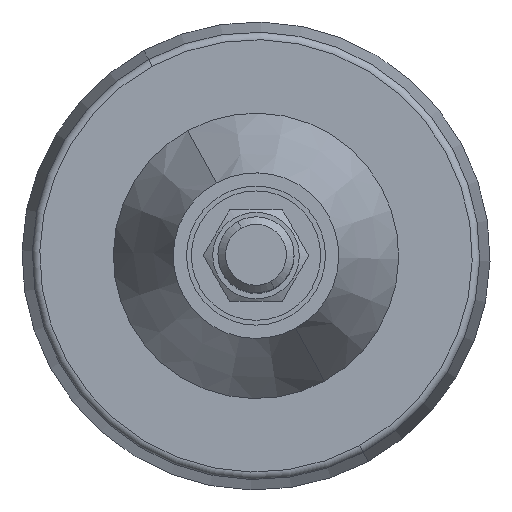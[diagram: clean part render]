
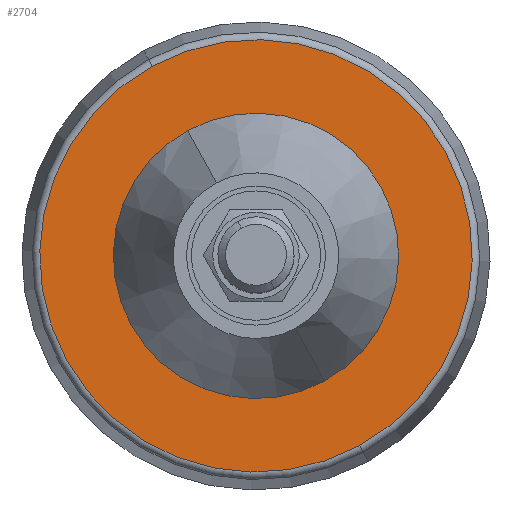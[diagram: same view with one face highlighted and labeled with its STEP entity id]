
A CAD part, top view. The second image highlights one B-rep face of the part: STEP entity #2704.
In plain terms, the highlighted planar face has unit normal (0, 0, 1).
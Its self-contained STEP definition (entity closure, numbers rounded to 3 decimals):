
#2638=CARTESIAN_POINT('Vertex',(-27.238,49.859,-14.)) ;
#2645=CARTESIAN_POINT('Vertex',(27.238,-49.859,-14.)) ;
#2648=CARTESIAN_POINT('Axis2P3D Location',(0.,0.,-14.)) ;
#2665=CARTESIAN_POINT('Axis2P3D Location',(0.,0.,-14.)) ;
#2677=CARTESIAN_POINT('Axis2P3D Location',(0.,58.5,-14.)) ;
#2686=CARTESIAN_POINT('Axis2P3D Location',(0.,0.,-14.)) ;
#2690=CARTESIAN_POINT('Vertex',(17.978,-32.909,-14.)) ;
#2692=CARTESIAN_POINT('Vertex',(-17.978,32.909,-14.)) ;
#2695=CARTESIAN_POINT('Axis2P3D Location',(0.,0.,-14.)) ;
#2649=DIRECTION('Axis2P3D Direction',(0.,0.,1.)) ;
#2666=DIRECTION('Axis2P3D Direction',(0.,0.,1.)) ;
#2678=DIRECTION('Axis2P3D Direction',(0.,0.,1.)) ;
#2679=DIRECTION('Axis2P3D XDirection',(1.,0.,0.)) ;
#2687=DIRECTION('Axis2P3D Direction',(0.,0.,1.)) ;
#2696=DIRECTION('Axis2P3D Direction',(0.,0.,1.)) ;
#2650=AXIS2_PLACEMENT_3D('Circle Axis2P3D',#2648,#2649,$) ;
#2667=AXIS2_PLACEMENT_3D('Circle Axis2P3D',#2665,#2666,$) ;
#2680=AXIS2_PLACEMENT_3D('Plane Axis2P3D',#2677,#2678,#2679) ;
#2688=AXIS2_PLACEMENT_3D('Circle Axis2P3D',#2686,#2687,$) ;
#2697=AXIS2_PLACEMENT_3D('Circle Axis2P3D',#2695,#2696,$) ;
#2683=ORIENTED_EDGE('',*,*,#2669,.T.) ;
#2684=ORIENTED_EDGE('',*,*,#2652,.T.) ;
#2701=ORIENTED_EDGE('',*,*,#2694,.F.) ;
#2702=ORIENTED_EDGE('',*,*,#2699,.F.) ;
#2703=FACE_BOUND('',#2700,.T.) ;
#2704=ADVANCED_FACE('PartBody',(#2685,#2703),#2681,.T.) ;
#2651=CIRCLE('generated circle',#2650,56.814) ;
#2668=CIRCLE('generated circle',#2667,56.814) ;
#2689=CIRCLE('generated circle',#2688,37.5) ;
#2698=CIRCLE('generated circle',#2697,37.5) ;
#2652=EDGE_CURVE('',#2639,#2646,#2651,.T.) ;
#2669=EDGE_CURVE('',#2646,#2639,#2668,.T.) ;
#2694=EDGE_CURVE('',#2691,#2693,#2689,.T.) ;
#2699=EDGE_CURVE('',#2693,#2691,#2698,.T.) ;
#2682=EDGE_LOOP('',(#2683,#2684)) ;
#2700=EDGE_LOOP('',(#2701,#2702)) ;
#2685=FACE_OUTER_BOUND('',#2682,.T.) ;
#2681=PLANE('',#2680) ;
#2639=VERTEX_POINT('',#2638) ;
#2646=VERTEX_POINT('',#2645) ;
#2691=VERTEX_POINT('',#2690) ;
#2693=VERTEX_POINT('',#2692) ;
